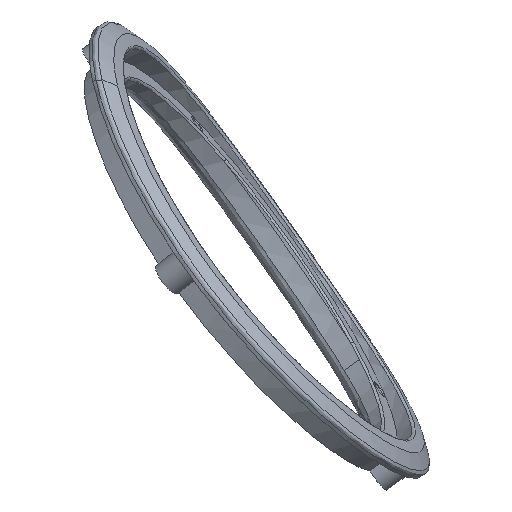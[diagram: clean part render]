
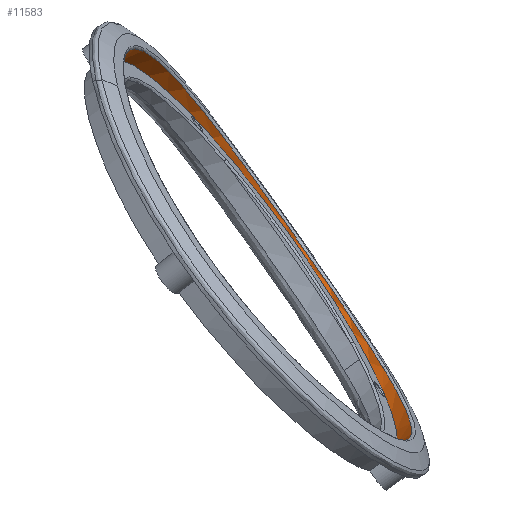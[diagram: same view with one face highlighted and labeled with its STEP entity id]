
A CAD part, top view. The second image highlights one B-rep face of the part: STEP entity #11583.
In plain terms, the highlighted cylindrical face has radius 47.5 mm (diameter 95 mm), a partial arc.
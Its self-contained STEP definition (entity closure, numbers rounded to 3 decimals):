
#427 = CARTESIAN_POINT ( 'NONE',  ( 278.778, 87.005, 16.262 ) ) ;
#518 = CARTESIAN_POINT ( 'NONE',  ( 305.509, 34.205, 61.572 ) ) ;
#546 = VECTOR ( 'NONE', #2798, 1000. ) ;
#597 = CARTESIAN_POINT ( 'NONE',  ( 294.451, 64.641, 17.829 ) ) ;
#683 = CARTESIAN_POINT ( 'NONE',  ( 256.545, 113.128, 47.707 ) ) ;
#762 = ORIENTED_EDGE ( 'NONE', *, *, #1786, .T. ) ;
#766 = CARTESIAN_POINT ( 'NONE',  ( 283.422, 80.507, 14.995 ) ) ;
#861 = CARTESIAN_POINT ( 'NONE',  ( 308.423, 41.379, 43.083 ) ) ;
#1199 = CARTESIAN_POINT ( 'NONE',  ( 249.958, 111.271, 61.572 ) ) ;
#1544 = B_SPLINE_CURVE_WITH_KNOTS ( 'NONE', 3,
 ( #2778, #15056, #9847, #8443, #10981, #12534, #13827, #1731, #597, #16268, #4345, #5826, #3127, #8358, #1900, #11320, #12616, #16523, #766, #8525, #16609, #7218, #14967, #427, #7051, #13914, #16441, #9757, #15220, #4683, #5994, #9666, #12700, #5742, #3038, #4598, #11234, #5910, #9930, #13664, #3290, #7303, #1982, #13748, #683, #8607, #15308, #3209, #4429, #7385 ),
 .UNSPECIFIED., .F., .F.,
 ( 4, 2, 2, 2, 2, 2, 2, 2, 2, 2, 2, 2, 2, 2, 2, 2, 2, 2, 2, 2, 2, 2, 2, 2, 4 ),
 ( 0.297, 0.304, 0.311, 0.315, 0.318, 0.325, 0.328, 0.33, 0.332, 0.339, 0.342, 0.344, 0.346, 0.353, 0.36, 0.363, 0.366, 0.373, 0.377, 0.38, 0.387, 0.391, 0.394, 0.401, 0.408 ),
 .UNSPECIFIED. ) ;
#1731 = CARTESIAN_POINT ( 'NONE',  ( 295.058, 63.746, 18.241 ) ) ;
#1786 = EDGE_CURVE ( 'NONE', #7952, #11103, #9824, .T. ) ;
#1900 = CARTESIAN_POINT ( 'NONE',  ( 287.413, 74.834, 15.107 ) ) ;
#1982 = CARTESIAN_POINT ( 'NONE',  ( 257.628, 112.421, 44.463 ) ) ;
#2075 = CARTESIAN_POINT ( 'NONE',  ( 307.367, 43.781, 38.115 ) ) ;
#2158 = CARTESIAN_POINT ( 'NONE',  ( 308.296, 41.697, 42.359 ) ) ;
#2545 = ORIENTED_EDGE ( 'NONE', *, *, #12659, .T. ) ;
#2778 = CARTESIAN_POINT ( 'NONE',  ( 303.487, 50.747, 28.204 ) ) ;
#2798 = DIRECTION ( 'NONE',  ( 0.798, 0.576, 0.177 ) ) ;
#2969 = CARTESIAN_POINT ( 'NONE',  ( 249.958, 111.271, 61.572 ) ) ;
#3038 = CARTESIAN_POINT ( 'NONE',  ( 264.893, 105.201, 29.167 ) ) ;
#3127 = CARTESIAN_POINT ( 'NONE',  ( 288.742, 72.931, 15.345 ) ) ;
#3209 = CARTESIAN_POINT ( 'NONE',  ( 253.921, 113.917, 57.719 ) ) ;
#3218 = CARTESIAN_POINT ( 'NONE',  ( 308.016, 42.362, 40.922 ) ) ;
#3290 = CARTESIAN_POINT ( 'NONE',  ( 259.195, 111.184, 40.301 ) ) ;
#3467 = CARTESIAN_POINT ( 'NONE',  ( 306.989, 44.542, 36.765 ) ) ;
#3958 = CARTESIAN_POINT ( 'NONE',  ( 253.105, 113.539, 62.27 ) ) ;
#4345 = CARTESIAN_POINT ( 'NONE',  ( 291.341, 69.186, 16.136 ) ) ;
#4429 = CARTESIAN_POINT ( 'NONE',  ( 253.476, 113.806, 59.984 ) ) ;
#4598 = CARTESIAN_POINT ( 'NONE',  ( 263.362, 106.945, 31.747 ) ) ;
#4606 = CARTESIAN_POINT ( 'NONE',  ( 308.99, 39.861, 46.733 ) ) ;
#4683 = CARTESIAN_POINT ( 'NONE',  ( 269.957, 98.901, 22.631 ) ) ;
#4835 = DIRECTION ( 'NONE',  ( 0.798, 0.576, 0.177 ) ) ;
#4862 = CARTESIAN_POINT ( 'NONE',  ( 309.263, 37.905, 53.616 ) ) ;
#5222 = CARTESIAN_POINT ( 'NONE',  ( 277.734, 72.738, 61.572 ) ) ;
#5397 = CARTESIAN_POINT ( 'NONE',  ( 277.734, 72.738, 61.572 ) ) ;
#5578 = CIRCLE ( 'NONE', #9474, 47.5 ) ;
#5742 = CARTESIAN_POINT ( 'NONE',  ( 265.958, 103.93, 27.567 ) ) ;
#5826 = CARTESIAN_POINT ( 'NONE',  ( 289.398, 71.989, 15.512 ) ) ;
#5910 = CARTESIAN_POINT ( 'NONE',  ( 261.885, 108.55, 34.481 ) ) ;
#5994 = CARTESIAN_POINT ( 'NONE',  ( 269.36, 99.671, 23.281 ) ) ;
#6261 = EDGE_CURVE ( 'NONE', #12049, #8832, #14725, .T. ) ;
#6327 = VERTEX_POINT ( 'NONE', #8286 ) ;
#6656 = VECTOR ( 'NONE', #4835, 1000. ) ;
#7051 = CARTESIAN_POINT ( 'NONE',  ( 278.446, 87.465, 16.403 ) ) ;
#7218 = CARTESIAN_POINT ( 'NONE',  ( 279.773, 85.622, 15.885 ) ) ;
#7303 = CARTESIAN_POINT ( 'NONE',  ( 258.009, 112.138, 43.408 ) ) ;
#7385 = CARTESIAN_POINT ( 'NONE',  ( 253.105, 113.539, 62.27 ) ) ;
#7393 = CARTESIAN_POINT ( 'NONE',  ( 308.665, 36.48, 62.272 ) ) ;
#7479 = CARTESIAN_POINT ( 'NONE',  ( 309.176, 37.245, 56.76 ) ) ;
#7952 = VERTEX_POINT ( 'NONE', #518 ) ;
#8286 = CARTESIAN_POINT ( 'NONE',  ( 303.487, 50.747, 28.204 ) ) ;
#8358 = CARTESIAN_POINT ( 'NONE',  ( 287.747, 74.357, 15.159 ) ) ;
#8443 = CARTESIAN_POINT ( 'NONE',  ( 299.641, 56.862, 22.437 ) ) ;
#8525 = CARTESIAN_POINT ( 'NONE',  ( 281.431, 83.305, 15.388 ) ) ;
#8534 = CARTESIAN_POINT ( 'NONE',  ( 305.719, 46.962, 32.856 ) ) ;
#8607 = CARTESIAN_POINT ( 'NONE',  ( 255.547, 113.646, 51.009 ) ) ;
#8832 = VERTEX_POINT ( 'NONE', #3958 ) ;
#8871 = CARTESIAN_POINT ( 'NONE',  ( 308.873, 36.63, 60.702 ) ) ;
#9185 = AXIS2_PLACEMENT_3D ( 'NONE', #5222, #11675, #12806 ) ;
#9405 = DIRECTION ( 'NONE',  ( 0.585, -0.811, 0. ) ) ;
#9474 = AXIS2_PLACEMENT_3D ( 'NONE', #5397, #16013, #9405 ) ;
#9666 = CARTESIAN_POINT ( 'NONE',  ( 268.196, 101.152, 24.638 ) ) ;
#9757 = CARTESIAN_POINT ( 'NONE',  ( 272.993, 94.907, 19.738 ) ) ;
#9824 = LINE ( 'NONE', #16590, #6656 ) ;
#9847 = CARTESIAN_POINT ( 'NONE',  ( 301.667, 53.702, 25.113 ) ) ;
#9856 = CARTESIAN_POINT ( 'NONE',  ( 309.212, 37.396, 55.968 ) ) ;
#9930 = CARTESIAN_POINT ( 'NONE',  ( 261.413, 109.041, 35.423 ) ) ;
#10108 = CARTESIAN_POINT ( 'NONE',  ( 309.255, 37.726, 54.396 ) ) ;
#10194 = CARTESIAN_POINT ( 'NONE',  ( 307.862, 42.709, 40.21 ) ) ;
#10372 = CARTESIAN_POINT ( 'NONE',  ( 308.665, 36.48, 62.272 ) ) ;
#10981 = CARTESIAN_POINT ( 'NONE',  ( 298.562, 58.509, 21.235 ) ) ;
#11103 = VERTEX_POINT ( 'NONE', #10372 ) ;
#11234 = CARTESIAN_POINT ( 'NONE',  ( 262.863, 107.499, 32.638 ) ) ;
#11320 = CARTESIAN_POINT ( 'NONE',  ( 286.747, 75.785, 15.026 ) ) ;
#11498 = CARTESIAN_POINT ( 'NONE',  ( 309.232, 38.87, 49.743 ) ) ;
#11583 = ADVANCED_FACE ( 'NONE', ( #16881 ), #17140, .F. ) ;
#11675 = DIRECTION ( 'NONE',  ( 0.798, 0.576, 0.177 ) ) ;
#12001 = ORIENTED_EDGE ( 'NONE', *, *, #13924, .T. ) ;
#12049 = VERTEX_POINT ( 'NONE', #1199 ) ;
#12534 = CARTESIAN_POINT ( 'NONE',  ( 296.846, 61.089, 19.645 ) ) ;
#12616 = CARTESIAN_POINT ( 'NONE',  ( 286.415, 76.259, 14.996 ) ) ;
#12659 = EDGE_CURVE ( 'NONE', #11103, #6327, #16748, .T. ) ;
#12700 = CARTESIAN_POINT ( 'NONE',  ( 267.628, 101.866, 25.348 ) ) ;
#12708 = CARTESIAN_POINT ( 'NONE',  ( 303.487, 50.747, 28.204 ) ) ;
#12806 = DIRECTION ( 'NONE',  ( -0.585, 0.811, 0. ) ) ;
#13009 = ORIENTED_EDGE ( 'NONE', *, *, #6261, .F. ) ;
#13664 = CARTESIAN_POINT ( 'NONE',  ( 260.044, 110.409, 38.304 ) ) ;
#13748 = CARTESIAN_POINT ( 'NONE',  ( 256.897, 112.916, 46.61 ) ) ;
#13827 = CARTESIAN_POINT ( 'NONE',  ( 296.255, 61.97, 19.148 ) ) ;
#13836 = CARTESIAN_POINT ( 'NONE',  ( 304.692, 48.756, 30.434 ) ) ;
#13906 = EDGE_CURVE ( 'NONE', #12049, #7952, #5578, .T. ) ;
#13914 = CARTESIAN_POINT ( 'NONE',  ( 276.796, 89.745, 17.155 ) ) ;
#13924 = EDGE_CURVE ( 'NONE', #6327, #8832, #1544, .T. ) ;
#14725 = LINE ( 'NONE', #2969, #546 ) ;
#14967 = CARTESIAN_POINT ( 'NONE',  ( 279.441, 86.084, 16.003 ) ) ;
#15056 = CARTESIAN_POINT ( 'NONE',  ( 302.614, 52.19, 26.589 ) ) ;
#15220 = CARTESIAN_POINT ( 'NONE',  ( 271.764, 96.544, 20.802 ) ) ;
#15252 = EDGE_LOOP ( 'NONE', ( #15763, #762, #2545, #12001, #13009 ) ) ;
#15308 = CARTESIAN_POINT ( 'NONE',  ( 254.957, 113.837, 53.232 ) ) ;
#15763 = ORIENTED_EDGE ( 'NONE', *, *, #13906, .T. ) ;
#16013 = DIRECTION ( 'NONE',  ( -0.798, -0.576, -0.177 ) ) ;
#16268 = CARTESIAN_POINT ( 'NONE',  ( 292.605, 67.349, 16.716 ) ) ;
#16441 = CARTESIAN_POINT ( 'NONE',  ( 275.51, 91.507, 17.914 ) ) ;
#16523 = CARTESIAN_POINT ( 'NONE',  ( 284.751, 78.627, 14.901 ) ) ;
#16590 = CARTESIAN_POINT ( 'NONE',  ( 305.509, 34.205, 61.572 ) ) ;
#16609 = CARTESIAN_POINT ( 'NONE',  ( 280.768, 84.234, 15.561 ) ) ;
#16617 = CARTESIAN_POINT ( 'NONE',  ( 309.027, 36.839, 59.128 ) ) ;
#16748 = B_SPLINE_CURVE_WITH_KNOTS ( 'NONE', 3,
 ( #7393, #8871, #16617, #7479, #9856, #10108, #4862, #11498, #4606, #861, #2158, #3218, #10194, #2075, #3467, #8534, #13836, #12708 ),
 .UNSPECIFIED., .F., .F.,
 ( 4, 2, 2, 2, 2, 2, 2, 2, 4 ),
 ( 0.259, 0.264, 0.266, 0.269, 0.278, 0.281, 0.283, 0.288, 0.297 ),
 .UNSPECIFIED. ) ;
#16881 = FACE_OUTER_BOUND ( 'NONE', #15252, .T. ) ;
#17140 = CYLINDRICAL_SURFACE ( 'NONE', #9185, 47.5 ) ;
